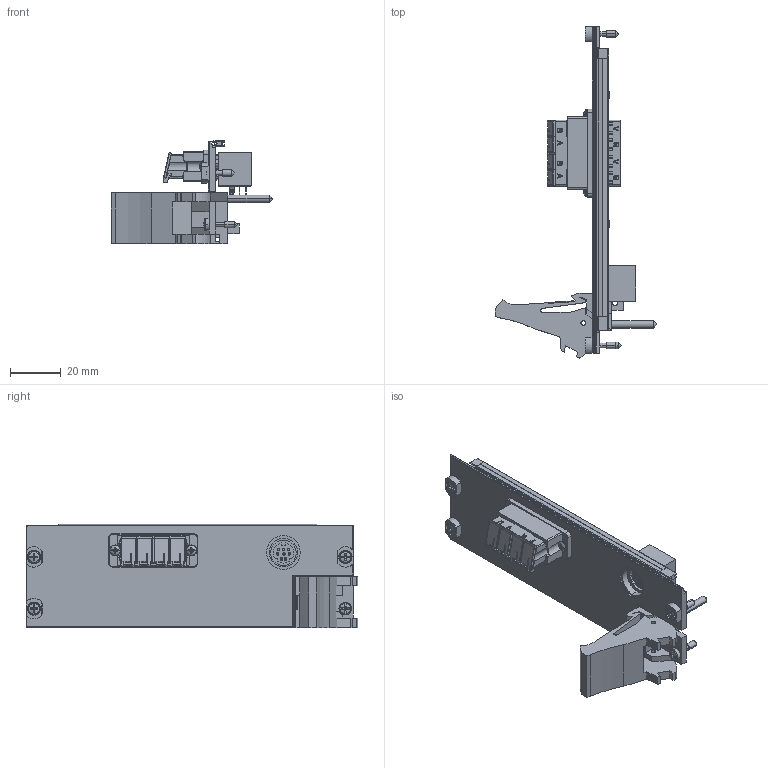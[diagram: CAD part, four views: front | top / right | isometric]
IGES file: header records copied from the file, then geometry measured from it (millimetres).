
Start section:  PTC IGES file: cu_pxie-4844.igs
Global section: file name: cu_pxie-4844.igs; native system: Pro/ENGINEER by Parametric Technology Corporation; preprocessor: 2006510; author: jjorden; organization: Unknown; date: 20100713.123640; units: inch
Bounding box: 63.53 x 130.5 x 40.61 mm (x, y, z)
Surface area: 30606.2 mm2 (no closed solid volume)
Topology: 0 solids, 0 shells, 1886 faces, 10052 edges, 10004 vertices
Faces by surface type: bspline 1311, revolution 575
